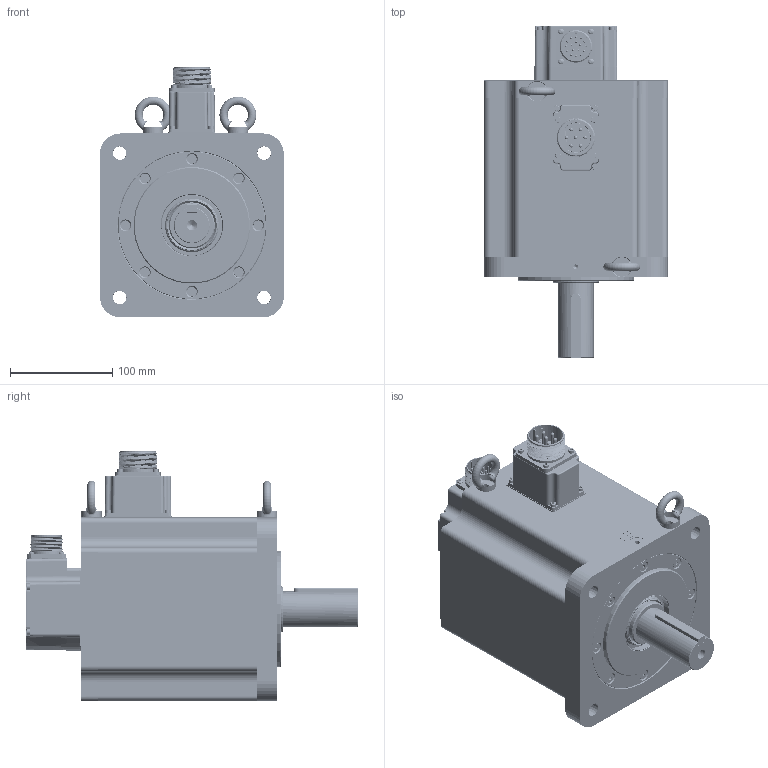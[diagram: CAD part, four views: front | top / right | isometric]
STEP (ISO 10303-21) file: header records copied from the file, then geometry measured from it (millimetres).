
FILE_DESCRIPTION(/* description */ ('AdapterTestApp'),/* implementation_level */ '2;1');
FILE_NAME(/* name */ 'TCE180 6E XX 3 A1 0 C3',/* time_stamp */ '2015-09-11T16:41:35+02:00',/* author */ ('AdapterTestApp'),/* organization */ ('Siemens PLM Software'),/* preprocessor_version */ 'ST-DEVELOPER v15.6',/* originating_system */ 'DEX',/* authorisation */ $);
FILE_SCHEMA (('AUTOMOTIVE_DESIGN {1 0 10303 214 3 1 1}'));
Products named in the file (35): TCE180 6E XX 3 A1 0 C3_vuoto; 003251022004; 005123001580; 005911000216; 003103001503; 005911000493; 005911000479; 005204000003; 005123001110; 005204000001; back cover TCE100 + CN MIL; 001107000620; 003303000373; 005911000525; 003108015154; 005204000002; 005119001104; N0180026; 005911000006; 005321000010; 003251022003; 005008000953; U5180003_vuoto; 003120002508; 003303000370; cap-M3 nudo; 005911000190; 003799000581; 005911000201; 003303000372; 007117001752; 005008000664; 005008000690; 003155002050; 005113001070
Assembly tree (66 placements, depth 3):
  TCE180 6E XX 3 A1 0 C3_vuoto
    003251022004
    005123001580
    005911000216  x4
    003103001503
    005911000493  x4
    005911000479  x8
    005204000003
    005123001110
    005204000001
    back cover TCE100 + CN MIL
      001107000620
      003303000373
      005911000525  x4
      003108015154
    005204000002
    005119001104
    N0180026
    005911000006  x8
    005321000010  x2
    003251022003
    005008000953
    U5180003_vuoto
      003120002508
      003303000370
      cap-M3 nudo
      005911000190
      003799000581
      005911000201  x8
      003303000372
      007117001752
    005008000664
    005008000690  x2
    003155002050
    005113001070
Bounding box: 180.3 x 325 x 245.3 mm (x, y, z)
Volume: 2949426.8 mm3; surface area: 701030.1 mm2
Topology: 80 solids, 87 shells, 2851 faces, 6989 edges, 4479 vertices
Faces by surface type: plane 1380, cylinder 711, cone 223, torus 183, bspline 182, extrusion 88, sphere 82, revolution 2
Full cylindrical faces by diameter (mm): 1.423 x1, 1.523 x1, 2 x34, 2.163 x1, 2.459 x21, 2.5 x1, 2.6 x1, 2.9 x4, 3 x30, 3.048 x4, 3.2 x1, 3.242 x6, 3.5 x15, 3.6 x7, 3.7 x4, 4 x9, 4.134 x24, 4.4 x15, 4.7 x8, 4.917 x2, 5 x16, 5.3 x1, 5.5 x15, 5.6 x4, 6 x7, 6.6 x6, 6.647 x22, 7 x8, 7.2 x1, 8 x16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
Entity records: 85782 total; most frequent: CARTESIAN_POINT 32682, DIRECTION 10504, ORIENTED_EDGE 10074, EDGE_CURVE 5037, AXIS2_PLACEMENT_3D 3920, VERTEX_POINT 3583, FACE_BOUND 3352, EDGE_LOOP 3292
